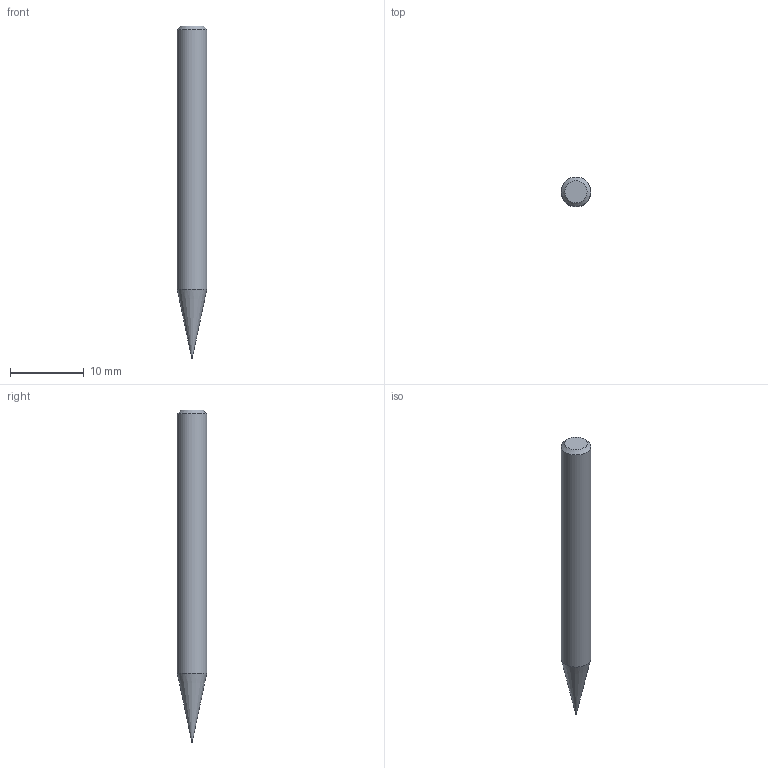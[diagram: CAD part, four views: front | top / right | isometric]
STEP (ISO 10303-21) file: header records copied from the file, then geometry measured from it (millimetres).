
FILE_DESCRIPTION((''),'2;1');
FILE_NAME('C:\Users\nsx150\AppData\Local\Temp\Mastercam 2021\CSMVKW3037\TEMP.step','2023-06-23T16:02:49',(''),(''),'STEP Write','Mastercam 2021 ... CNC Software, Inc.','');
FILE_SCHEMA(('AUTOMOTIVE_DESIGN'));
Length unit declared in the file: millimetre
Products named in the file (1): None
Bounding box: 4 x 4 x 45 mm (x, y, z)
Volume: 486.8 mm3; surface area: 517.9 mm2
Topology: 2 solids, 2 shells, 10 faces, 14 edges, 8 vertices
Faces by surface type: plane 4, cylinder 3, cone 2, torus 1
Full cylindrical faces by diameter (mm): 0.18 x1, 0.2 x1, 4 x1
Entity records: 232 total; most frequent: DIRECTION 40, CARTESIAN_POINT 28, AXIS2_PLACEMENT_3D 20, ORIENTED_EDGE 16, EDGE_LOOP 16, STYLED_ITEM 13, ADVANCED_FACE 10, FACE_BOUND 10
